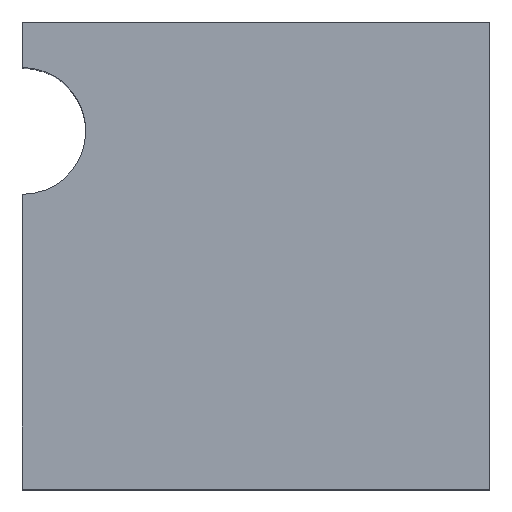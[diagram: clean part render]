
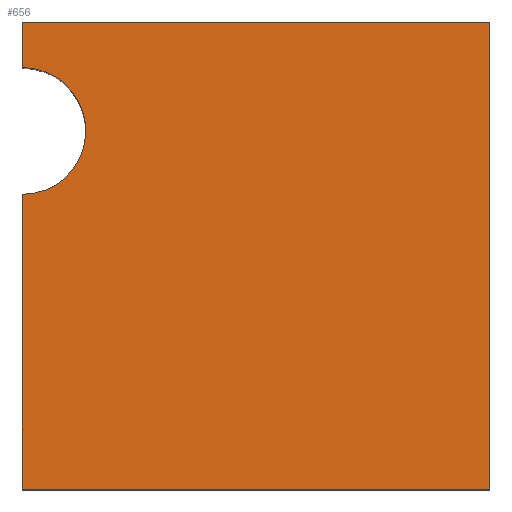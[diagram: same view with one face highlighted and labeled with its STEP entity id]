
A CAD part, top view. The second image highlights one B-rep face of the part: STEP entity #656.
In plain terms, the highlighted planar face has unit normal (0, 0, 1).
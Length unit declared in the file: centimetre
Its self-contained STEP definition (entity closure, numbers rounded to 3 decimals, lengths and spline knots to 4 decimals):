
#2 = EDGE_CURVE ( 'NONE', #10, #504, #187, .T. ) ;
#7 = DIRECTION ( 'NONE',  ( 0., -1., 0. ) ) ;
#10 = VERTEX_POINT ( 'NONE', #704 ) ;
#11 = VERTEX_POINT ( 'NONE', #237 ) ;
#37 = CARTESIAN_POINT ( 'NONE',  ( 0., 902.4876, 1000. ) ) ;
#38 = DIRECTION ( 'NONE',  ( -1., 0., 0. ) ) ;
#77 = EDGE_CURVE ( 'NONE', #462, #395, #505, .T. ) ;
#93 = PLANE ( 'NONE',  #190 ) ;
#126 = ORIENTED_EDGE ( 'NONE', *, *, #330, .T. ) ;
#127 = LINE ( 'NONE', #354, #594 ) ;
#129 = ORIENTED_EDGE ( 'NONE', *, *, #677, .T. ) ;
#161 = ORIENTED_EDGE ( 'NONE', *, *, #77, .T. ) ;
#171 = EDGE_CURVE ( 'NONE', #11, #240, #300, .T. ) ;
#187 = LINE ( 'NONE', #420, #209 ) ;
#190 = AXIS2_PLACEMENT_3D ( 'NONE', #545, #382, #718 ) ;
#196 = DIRECTION ( 'NONE',  ( 1., 0., 0. ) ) ;
#202 = FACE_OUTER_BOUND ( 'NONE', #302, .T. ) ;
#205 = CARTESIAN_POINT ( 'NONE',  ( 0., 766.8243, 1000. ) ) ;
#209 = VECTOR ( 'NONE', #473, 100. ) ;
#223 = VECTOR ( 'NONE', #7, 100. ) ;
#237 = CARTESIAN_POINT ( 'NONE',  ( 1000., 0., 1000. ) ) ;
#240 = VERTEX_POINT ( 'NONE', #422 ) ;
#253 = CIRCLE ( 'NONE', #664, 135.6633 ) ;
#258 = LINE ( 'NONE', #698, #629 ) ;
#300 = LINE ( 'NONE', #464, #347 ) ;
#302 = EDGE_LOOP ( 'NONE', ( #129, #457, #126, #399, #346, #161 ) ) ;
#326 = CARTESIAN_POINT ( 'NONE',  ( 0., 1000., 1000. ) ) ;
#330 = EDGE_CURVE ( 'NONE', #504, #11, #127, .T. ) ;
#346 = ORIENTED_EDGE ( 'NONE', *, *, #458, .T. ) ;
#347 = VECTOR ( 'NONE', #694, 100. ) ;
#354 = CARTESIAN_POINT ( 'NONE',  ( 0., 0., 1000. ) ) ;
#382 = DIRECTION ( 'NONE',  ( 0., 0., 1. ) ) ;
#395 = VERTEX_POINT ( 'NONE', #37 ) ;
#399 = ORIENTED_EDGE ( 'NONE', *, *, #171, .T. ) ;
#420 = CARTESIAN_POINT ( 'NONE',  ( 0., 1000., 1000. ) ) ;
#422 = CARTESIAN_POINT ( 'NONE',  ( 1000., 1000., 1000. ) ) ;
#435 = DIRECTION ( 'NONE',  ( 0., 0., -1. ) ) ;
#439 = CARTESIAN_POINT ( 'NONE',  ( 0., 0., 1000. ) ) ;
#457 = ORIENTED_EDGE ( 'NONE', *, *, #2, .T. ) ;
#458 = EDGE_CURVE ( 'NONE', #240, #462, #258, .T. ) ;
#462 = VERTEX_POINT ( 'NONE', #479 ) ;
#464 = CARTESIAN_POINT ( 'NONE',  ( 1000., 1000., 1000. ) ) ;
#473 = DIRECTION ( 'NONE',  ( 0., -1., 0. ) ) ;
#479 = CARTESIAN_POINT ( 'NONE',  ( 0., 1000., 1000. ) ) ;
#504 = VERTEX_POINT ( 'NONE', #439 ) ;
#505 = LINE ( 'NONE', #326, #223 ) ;
#545 = CARTESIAN_POINT ( 'NONE',  ( 0., 0., 1000. ) ) ;
#594 = VECTOR ( 'NONE', #196, 100. ) ;
#629 = VECTOR ( 'NONE', #38, 100. ) ;
#656 = ADVANCED_FACE ( 'NONE', ( #202 ), #93, .T. ) ;
#661 = DIRECTION ( 'NONE',  ( -1., 0., 0. ) ) ;
#664 = AXIS2_PLACEMENT_3D ( 'NONE', #205, #435, #661 ) ;
#677 = EDGE_CURVE ( 'NONE', #395, #10, #253, .T. ) ;
#694 = DIRECTION ( 'NONE',  ( 0., 1., 0. ) ) ;
#698 = CARTESIAN_POINT ( 'NONE',  ( 0., 1000., 1000. ) ) ;
#704 = CARTESIAN_POINT ( 'NONE',  ( 0., 631.1609, 1000. ) ) ;
#718 = DIRECTION ( 'NONE',  ( 1., 0., 0. ) ) ;
